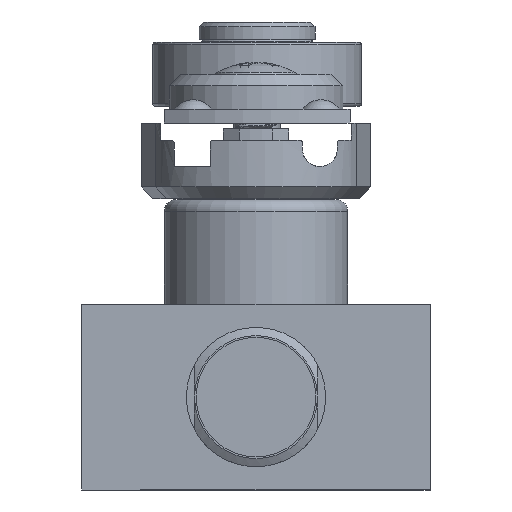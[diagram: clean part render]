
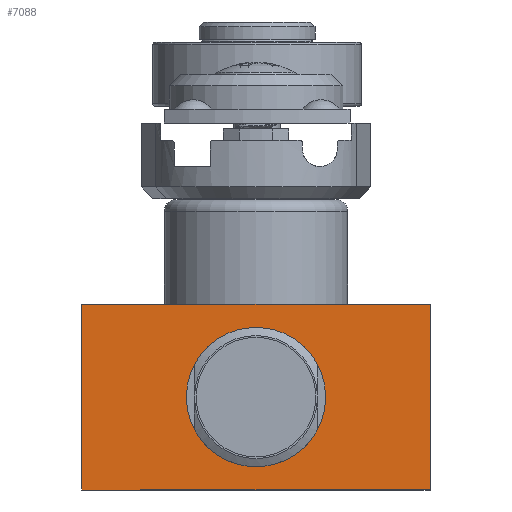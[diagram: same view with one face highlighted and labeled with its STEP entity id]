
A CAD part, front view. The second image highlights one B-rep face of the part: STEP entity #7088.
In plain terms, the highlighted planar face has unit normal (0, -1, 0) as drawn and (0, 0, -1) by its records, which use the part's own axes.
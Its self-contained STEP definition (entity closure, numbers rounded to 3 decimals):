
#817=FACE_OUTER_BOUND('',#1217,.T.);
#1217=EDGE_LOOP('',(#4659,#4660,#4661,#4662));
#1655=LINE('',#10840,#2253);
#1656=LINE('',#10842,#2254);
#1657=LINE('',#10844,#2255);
#1658=LINE('',#10845,#2256);
#2253=VECTOR('',#8588,1.25);
#2254=VECTOR('',#8589,30.);
#2255=VECTOR('',#8590,16.);
#2256=VECTOR('',#8591,30.);
#2851=VERTEX_POINT('',#10838);
#2852=VERTEX_POINT('',#10839);
#2853=VERTEX_POINT('',#10841);
#2854=VERTEX_POINT('',#10843);
#3576=EDGE_CURVE('',#2851,#2852,#1655,.T.);
#3577=EDGE_CURVE('',#2853,#2851,#1656,.T.);
#3578=EDGE_CURVE('',#2854,#2853,#1657,.T.);
#3579=EDGE_CURVE('',#2852,#2854,#1658,.T.);
#4659=ORIENTED_EDGE('',*,*,#3576,.F.);
#4660=ORIENTED_EDGE('',*,*,#3577,.F.);
#4661=ORIENTED_EDGE('',*,*,#3578,.F.);
#4662=ORIENTED_EDGE('',*,*,#3579,.F.);
#6825=PLANE('',#7755);
#7088=ADVANCED_FACE('',(#817),#6825,.T.);
#7755=AXIS2_PLACEMENT_3D('',#10837,#8586,#8587);
#8586=DIRECTION('center_axis',(0.,0.,-1.));
#8587=DIRECTION('ref_axis',(-1.,0.,0.));
#8588=DIRECTION('',(0.,1.,0.));
#8589=DIRECTION('',(1.,0.,0.));
#8590=DIRECTION('',(0.,-1.,0.));
#8591=DIRECTION('',(-1.,0.,0.));
#10837=CARTESIAN_POINT('Origin',(15.,-2.2,-43.));
#10838=CARTESIAN_POINT('',(15.,-16.,-43.));
#10839=CARTESIAN_POINT('',(15.,0.,-43.));
#10840=CARTESIAN_POINT('',(15.,-1.25,-43.));
#10841=CARTESIAN_POINT('',(-15.,-16.,-43.));
#10842=CARTESIAN_POINT('',(-15.,-16.,-43.));
#10843=CARTESIAN_POINT('',(-15.,0.,-43.));
#10844=CARTESIAN_POINT('',(-15.,0.,-43.));
#10845=CARTESIAN_POINT('',(15.,0.,-43.));
